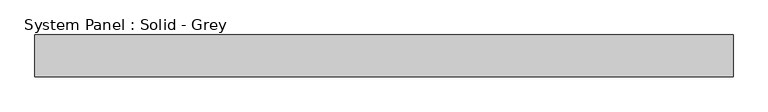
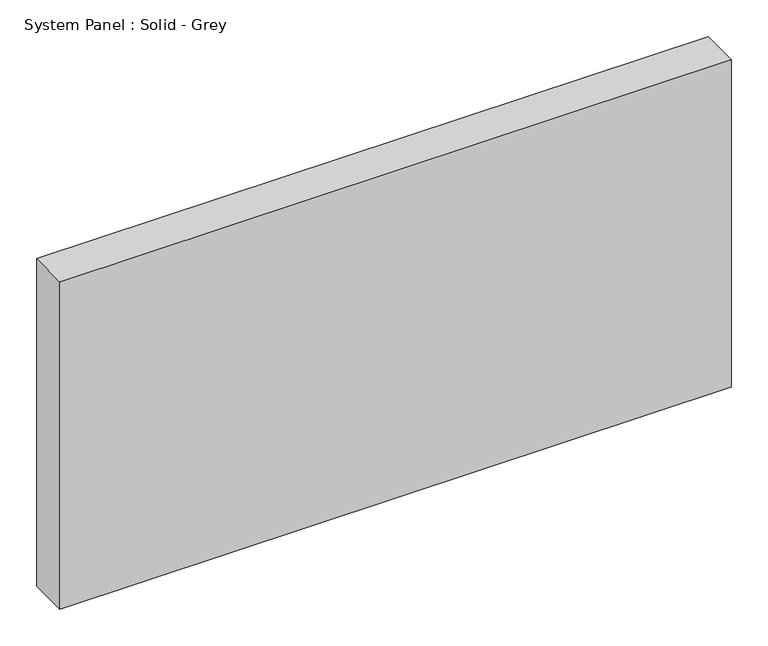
"""IFC4 building model written with IfcOpenShell, lengths in millimetres: plate geometry, System Panel : Solid - Grey."""

from ifc_helpers import new_model, si_unit, origin, origin_with_axes, place, context, project, spatial, polyline, outline, extrude, source, transform, mapped, element, save


def system_panel_solid_grey_88e7eaec(model_context):
    return source(origin(), model_context, "Body", "SweptSolid", [
        extrude(outline(polyline([(529.544643, -19.05), (-529.544643, -19.05), (-529.544643, 44.45), (529.544643, 44.45), (529.544643, -19.05)])), origin_with_axes(), (0.0, 0.0, 1.0), 546.1),
    ])


if __name__ == "__main__":
    model = new_model("IFC4")
    model_context = context("Model", 3, world=origin())
    ifc_project = project(units=[si_unit("LENGTHUNIT", "METRE", prefix="MILLI")], contexts=[model_context])
    site = spatial("IfcSite", under=ifc_project)
    building = spatial("IfcBuilding", under=site)
    placement = place(None, origin())
    system_panel_solid_grey_shape = system_panel_solid_grey_88e7eaec(model_context)
    element("IfcPlate", 1, ObjectType="System Panel : Solid - Grey", at=placement, inside=building, context=model_context, shape_type="MappedRepresentation", body=[
        mapped(system_panel_solid_grey_shape, transform((0.0, 0.0, 0.0), x_axis=(1.0, 0.0, 0.0), y_axis=(0.0, 1.0, 0.0), z_axis=(0.0, 0.0, 1.0))),
    ])
    save(model, "model.ifc")
